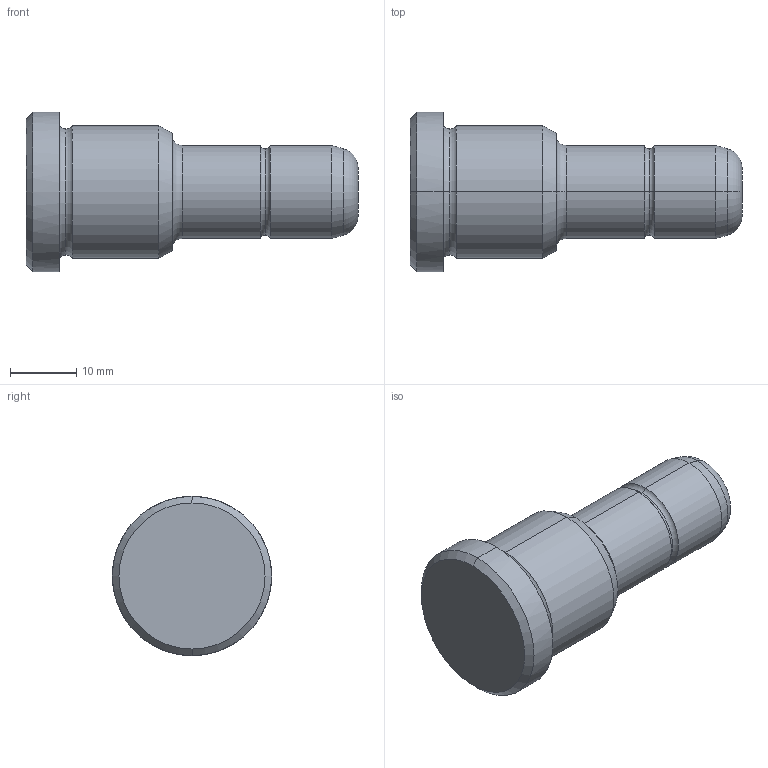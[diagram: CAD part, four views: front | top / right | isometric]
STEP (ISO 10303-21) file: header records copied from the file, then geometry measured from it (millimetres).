
FILE_DESCRIPTION(('CATIA V5 STEP Exchange'),'2;1');
FILE_NAME('C:\Users\Utente\Desktop\IO LAVORO\3D X SITO CF\X SITO\PLASTICA\351\351-14X22X50.stp','2021-08-18T10:01:08+00:00',('none'),('none'),'CATIA Version 5 Release 20 GA (IN-10)','CATIA V5 STEP AP203','none');
FILE_SCHEMA(('CONFIG_CONTROL_DESIGN'));
Length unit declared in the file: millimetre
Products named in the file (1): 351-14X22X50
Bounding box: 50 x 24 x 24 mm (x, y, z)
Volume: 11636.5 mm3; surface area: 3402.9 mm2
Topology: 1 solids, 1 shells, 30 faces, 86 edges, 60 vertices
Faces by surface type: torus 12, cylinder 8, cone 6, plane 4
Entity records: 1112 total; most frequent: CARTESIAN_POINT 289, ORIENTED_EDGE 172, DIRECTION 138, AXIS2_PLACEMENT_3D 95, EDGE_CURVE 86, CIRCLE 64, VERTEX_POINT 60, EDGE_LOOP 32
